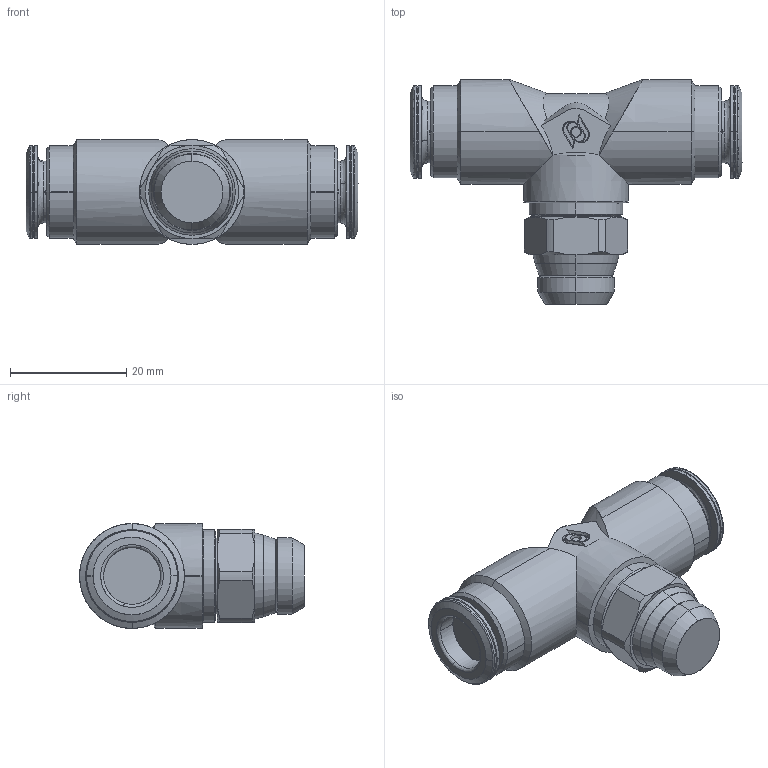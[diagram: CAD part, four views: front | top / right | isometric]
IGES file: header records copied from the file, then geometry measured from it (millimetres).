
Start section: SolidWorks IGES file using analytic representation for surfaces
Global section: file name: K:\Disegni\Disegni Esecutivi\ALPHA TECHNOLOGIES\84000\Assiemi-84000\84211\84211_iges\84211H0007.IGS; native system: SolidWorks 2016; preprocessor: SolidWorks 2016; author: cad07; date: 191212.094647; units: millimetre
Bounding box: 57 x 38.6 x 18 mm (x, y, z)
Surface area: 5418.3 mm2 (no closed solid volume)
Topology: 0 solids, 0 shells, 195 faces, 2483 edges, 2483 vertices
Faces by surface type: revolution 109, bspline 86
